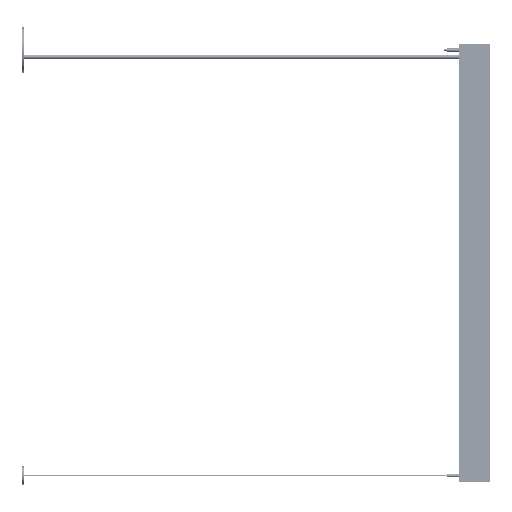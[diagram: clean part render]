
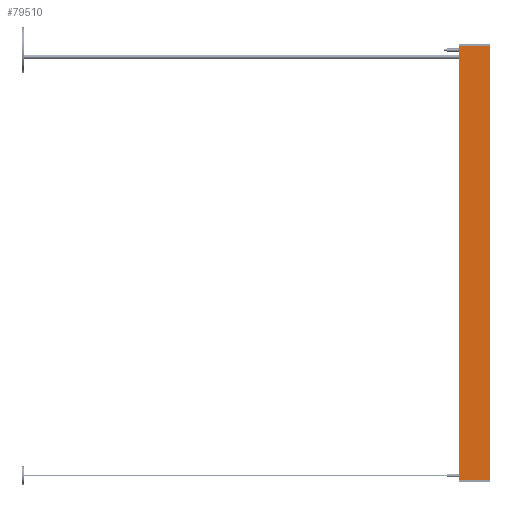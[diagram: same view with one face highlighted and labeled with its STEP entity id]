
A CAD part, left-side view. The second image highlights one B-rep face of the part: STEP entity #79510.
In plain terms, the highlighted planar face has unit normal (-1, 0, 0).
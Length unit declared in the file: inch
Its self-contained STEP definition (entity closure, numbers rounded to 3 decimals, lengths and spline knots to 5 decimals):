
#1044 = CARTESIAN_POINT ( 'NONE',  ( -1.1811, -3.43504, -24. ) ) ;
#6872 = VECTOR ( 'NONE', #49696, 39.37008 ) ;
#7248 = EDGE_LOOP ( 'NONE', ( #20625, #61048, #11081, #70720 ) ) ;
#8351 = DIRECTION ( 'NONE',  ( 0., 0., 1. ) ) ;
#10103 = DIRECTION ( 'NONE',  ( 0., -1., 0. ) ) ;
#11081 = ORIENTED_EDGE ( 'NONE', *, *, #74647, .T. ) ;
#11696 = LINE ( 'NONE', #30114, #6872 ) ;
#11732 = PLANE ( 'NONE',  #46199 ) ;
#13466 = CARTESIAN_POINT ( 'NONE',  ( -1.1811, -3.43504, 24. ) ) ;
#13744 = VERTEX_POINT ( 'NONE', #73694 ) ;
#15996 = VECTOR ( 'NONE', #50654, 39.37008 ) ;
#18098 = CARTESIAN_POINT ( 'NONE',  ( -1.1811, -0.01969, 24. ) ) ;
#18490 = LINE ( 'NONE', #13466, #15996 ) ;
#20625 = ORIENTED_EDGE ( 'NONE', *, *, #58458, .F. ) ;
#24270 = DIRECTION ( 'NONE',  ( -1., 0., 0. ) ) ;
#26707 = DIRECTION ( 'NONE',  ( 0., 0., 1. ) ) ;
#30114 = CARTESIAN_POINT ( 'NONE',  ( -1.1811, -3.43504, -24. ) ) ;
#35030 = VERTEX_POINT ( 'NONE', #18098 ) ;
#37207 = CARTESIAN_POINT ( 'NONE',  ( -1.1811, -3.43504, -24. ) ) ;
#46199 = AXIS2_PLACEMENT_3D ( 'NONE', #37207, #24270, #10103 ) ;
#47732 = VECTOR ( 'NONE', #8351, 39.37008 ) ;
#49567 = EDGE_CURVE ( 'NONE', #62615, #35030, #52605, .T. ) ;
#49696 = DIRECTION ( 'NONE',  ( 0., -1., 0. ) ) ;
#50654 = DIRECTION ( 'NONE',  ( 0., -1., 0. ) ) ;
#52605 = LINE ( 'NONE', #70598, #80838 ) ;
#54789 = FACE_OUTER_BOUND ( 'NONE', #7248, .T. ) ;
#55230 = EDGE_CURVE ( 'NONE', #59519, #13744, #71032, .T. ) ;
#56223 = CARTESIAN_POINT ( 'NONE',  ( -1.1811, -0.01969, -24. ) ) ;
#58458 = EDGE_CURVE ( 'NONE', #35030, #13744, #18490, .T. ) ;
#59519 = VERTEX_POINT ( 'NONE', #1044 ) ;
#61048 = ORIENTED_EDGE ( 'NONE', *, *, #49567, .F. ) ;
#62615 = VERTEX_POINT ( 'NONE', #56223 ) ;
#70598 = CARTESIAN_POINT ( 'NONE',  ( -1.1811, -0.01969, -24. ) ) ;
#70720 = ORIENTED_EDGE ( 'NONE', *, *, #55230, .T. ) ;
#71032 = LINE ( 'NONE', #78554, #47732 ) ;
#73694 = CARTESIAN_POINT ( 'NONE',  ( -1.1811, -3.43504, 24. ) ) ;
#74647 = EDGE_CURVE ( 'NONE', #62615, #59519, #11696, .T. ) ;
#78554 = CARTESIAN_POINT ( 'NONE',  ( -1.1811, -3.43504, -24. ) ) ;
#79510 = ADVANCED_FACE ( 'NONE', ( #54789 ), #11732, .T. ) ;
#80838 = VECTOR ( 'NONE', #26707, 39.37008 ) ;
